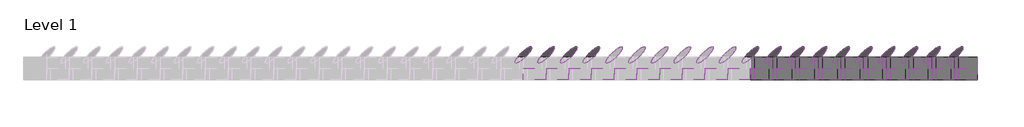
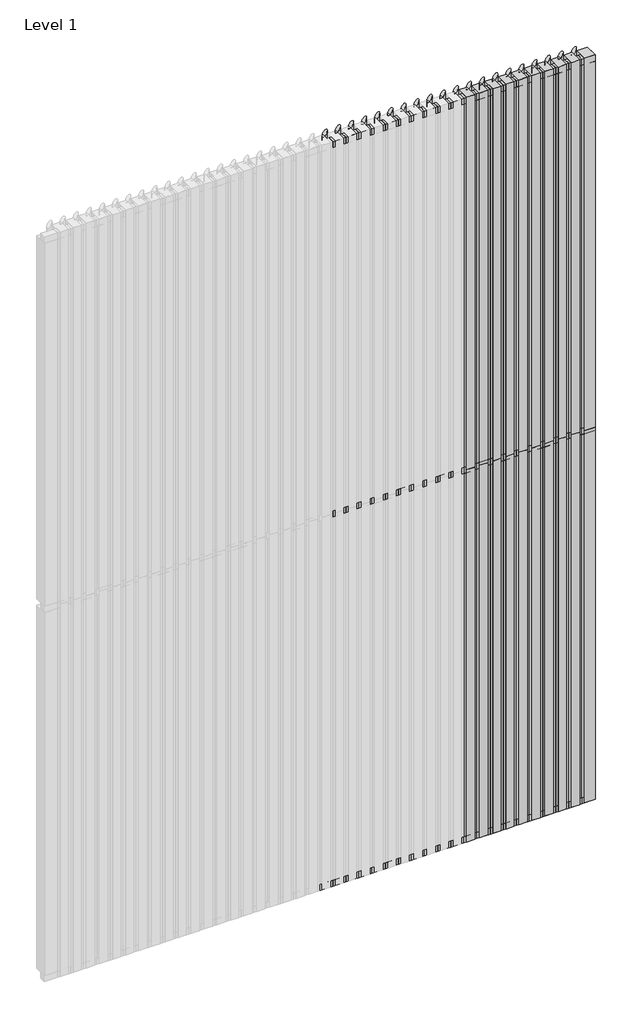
# One storey, part 4 of 4: 95 members, 40 plates.
"""IFC4 building model written with IfcOpenShell, lengths in millimetres."""

from ifc_helpers import new_model, si_unit, origin, place, context, project, spatial, transform, mapped, element, save
from components import rectangular_mullion_c274bac7, rectangular_mullion_cddbc660, rectangular_mullion_a3e25429, rectangular_mullion_ae434dd9, empty_system_panel_empty_d67cafe6, empty_system_panel_empty_80e3f5b0, empty_system_panel_empty_147de6ce

model = new_model("IFC4")

# Units and contexts
model_context = context("Model", 3, world=origin())
ifc_project = project(units=[si_unit("LENGTHUNIT", "METRE", prefix="MILLI")], contexts=[model_context])

# Site, building, storey
site = spatial("IfcSite", under=ifc_project)
building = spatial("IfcBuilding", under=site)
storey = spatial("IfcBuildingStorey", under=building, Name="Level 1", Elevation=0.0)

# Members
placement = place(None, origin())
rectangular_mullion_shape = rectangular_mullion_c274bac7(model_context)
element("IfcMember", 1, ObjectType="Rectangular Mullion : RSen_21_CWM_blade - 100 ellips - 45°_gen_duco projects", at=placement, inside=storey, context=model_context, shape_type="MappedRepresentation", body=[
    mapped(rectangular_mullion_shape, transform((5900.0, 3000.0, 0.0), x_axis=(-1.0, 0.0, 0.0), y_axis=(0.0, 1.0, 0.0), z_axis=(0.0, 0.0, -1.0))),
])
element("IfcMember", 2, ObjectType="Rectangular Mullion : RSen_21_CWM_blade - 100 ellips - 45°_gen_duco projects", at=placement, inside=storey, context=model_context, shape_type="MappedRepresentation", body=[
    mapped(rectangular_mullion_shape, transform((5800.0, 3000.0, 0.0), x_axis=(-1.0, 0.0, 0.0), y_axis=(0.0, 1.0, 0.0), z_axis=(0.0, 0.0, -1.0))),
])
element("IfcMember", 3, ObjectType="Rectangular Mullion : RSen_21_CWM_blade - 100 ellips - 45°_gen_duco projects", at=placement, inside=storey, context=model_context, shape_type="MappedRepresentation", body=[
    mapped(rectangular_mullion_shape, transform((5700.0, 3000.0, 0.0), x_axis=(-1.0, 0.0, 0.0), y_axis=(0.0, 1.0, 0.0), z_axis=(0.0, 0.0, -1.0))),
])
element("IfcMember", 4, ObjectType="Rectangular Mullion : RSen_21_CWM_blade - 100 ellips - 45°_gen_duco projects", at=placement, inside=storey, context=model_context, shape_type="MappedRepresentation", body=[
    mapped(rectangular_mullion_shape, transform((5600.0, 3000.0, 0.0), x_axis=(-1.0, 0.0, 0.0), y_axis=(0.0, 1.0, 0.0), z_axis=(0.0, 0.0, -1.0))),
])
element("IfcMember", 5, ObjectType="Rectangular Mullion : RSen_21_CWM_blade - 100 ellips - 45°_gen_duco projects", at=placement, inside=storey, context=model_context, shape_type="MappedRepresentation", body=[
    mapped(rectangular_mullion_shape, transform((5500.0, 3000.0, 0.0), x_axis=(-1.0, 0.0, 0.0), y_axis=(0.0, 1.0, 0.0), z_axis=(0.0, 0.0, -1.0))),
])
element("IfcMember", 6, ObjectType="Rectangular Mullion : RSen_21_CWM_blade - 100 ellips - 45°_gen_duco projects", at=placement, inside=storey, context=model_context, shape_type="MappedRepresentation", body=[
    mapped(rectangular_mullion_shape, transform((5400.0, 3000.0, 0.0), x_axis=(-1.0, 0.0, 0.0), y_axis=(0.0, 1.0, 0.0), z_axis=(0.0, 0.0, -1.0))),
])
element("IfcMember", 7, ObjectType="Rectangular Mullion : RSen_21_CWM_blade - 100 ellips - 45°_gen_duco projects", at=placement, inside=storey, context=model_context, shape_type="MappedRepresentation", body=[
    mapped(rectangular_mullion_shape, transform((5300.0, 3000.0, 0.0), x_axis=(-1.0, 0.0, 0.0), y_axis=(0.0, 1.0, 0.0), z_axis=(0.0, 0.0, -1.0))),
])
element("IfcMember", 8, ObjectType="Rectangular Mullion : RSen_21_CWM_blade - 100 ellips - 45°_gen_duco projects", at=placement, inside=storey, context=model_context, shape_type="MappedRepresentation", body=[
    mapped(rectangular_mullion_shape, transform((5200.0, 3000.0, 0.0), x_axis=(-1.0, 0.0, 0.0), y_axis=(0.0, 1.0, 0.0), z_axis=(0.0, 0.0, -1.0))),
])
element("IfcMember", 9, ObjectType="Rectangular Mullion : RSen_21_CWM_blade - 100 ellips - 45°_gen_duco projects", at=placement, inside=storey, context=model_context, shape_type="MappedRepresentation", body=[
    mapped(rectangular_mullion_shape, transform((5100.0, 3000.0, 0.0), x_axis=(-1.0, 0.0, 0.0), y_axis=(0.0, 1.0, 0.0), z_axis=(0.0, 0.0, -1.0))),
])
element("IfcMember", 10, ObjectType="Rectangular Mullion : RSen_21_CWM_blade - 100 ellips - 45°_gen_duco projects", at=placement, inside=storey, context=model_context, shape_type="MappedRepresentation", body=[
    mapped(rectangular_mullion_shape, transform((5000.0, 3000.0, 0.0), x_axis=(-1.0, 0.0, 0.0), y_axis=(0.0, 1.0, 0.0), z_axis=(0.0, 0.0, -1.0))),
])
element("IfcMember", 11, ObjectType="Rectangular Mullion : RSen_21_CWM_blade - 100 ellips - 45°_gen_duco projects", at=placement, inside=storey, context=model_context, shape_type="MappedRepresentation", body=[
    mapped(rectangular_mullion_shape, transform((4300.0, 3000.0, 0.0), x_axis=(-1.0, 0.0, 0.0), y_axis=(0.0, 1.0, 0.0), z_axis=(0.0, 0.0, -1.0))),
])
element("IfcMember", 12, ObjectType="Rectangular Mullion : RSen_21_CWM_blade - 100 ellips - 45°_gen_duco projects", at=placement, inside=storey, context=model_context, shape_type="MappedRepresentation", body=[
    mapped(rectangular_mullion_shape, transform((4200.0, 3000.0, 0.0), x_axis=(-1.0, 0.0, 0.0), y_axis=(0.0, 1.0, 0.0), z_axis=(0.0, 0.0, -1.0))),
])
element("IfcMember", 13, ObjectType="Rectangular Mullion : RSen_21_CWM_blade - 100 ellips - 45°_gen_duco projects", at=placement, inside=storey, context=model_context, shape_type="MappedRepresentation", body=[
    mapped(rectangular_mullion_shape, transform((4100.0, 3000.0, 0.0), x_axis=(-1.0, 0.0, 0.0), y_axis=(0.0, 1.0, 0.0), z_axis=(0.0, 0.0, -1.0))),
])
element("IfcMember", 14, ObjectType="Rectangular Mullion : RSen_21_CWM_blade - 100 ellips - 45°_gen_duco projects", at=placement, inside=storey, context=model_context, shape_type="MappedRepresentation", body=[
    mapped(rectangular_mullion_shape, transform((4000.0, 3000.0, 0.0), x_axis=(-1.0, 0.0, 0.0), y_axis=(0.0, 1.0, 0.0), z_axis=(0.0, 0.0, -1.0))),
])
element("IfcMember", 15, ObjectType="Rectangular Mullion : RSen_21_CWM_blade - 100 ellips - 45°_gen_duco projects", at=placement, inside=storey, context=model_context, shape_type="MappedRepresentation", body=[
    mapped(rectangular_mullion_shape, transform((5900.0, 3000.0, 3000.0), x_axis=(-1.0, 0.0, 0.0), y_axis=(0.0, 1.0, 0.0), z_axis=(0.0, 0.0, -1.0))),
])
element("IfcMember", 16, ObjectType="Rectangular Mullion : RSen_21_CWM_blade - 100 ellips - 45°_gen_duco projects", at=placement, inside=storey, context=model_context, shape_type="MappedRepresentation", body=[
    mapped(rectangular_mullion_shape, transform((5800.0, 3000.0, 3000.0), x_axis=(-1.0, 0.0, 0.0), y_axis=(0.0, 1.0, 0.0), z_axis=(0.0, 0.0, -1.0))),
])
element("IfcMember", 17, ObjectType="Rectangular Mullion : RSen_21_CWM_blade - 100 ellips - 45°_gen_duco projects", at=placement, inside=storey, context=model_context, shape_type="MappedRepresentation", body=[
    mapped(rectangular_mullion_shape, transform((5700.0, 3000.0, 3000.0), x_axis=(-1.0, 0.0, 0.0), y_axis=(0.0, 1.0, 0.0), z_axis=(0.0, 0.0, -1.0))),
])
element("IfcMember", 18, ObjectType="Rectangular Mullion : RSen_21_CWM_blade - 100 ellips - 45°_gen_duco projects", at=placement, inside=storey, context=model_context, shape_type="MappedRepresentation", body=[
    mapped(rectangular_mullion_shape, transform((5600.0, 3000.0, 3000.0), x_axis=(-1.0, 0.0, 0.0), y_axis=(0.0, 1.0, 0.0), z_axis=(0.0, 0.0, -1.0))),
])
element("IfcMember", 19, ObjectType="Rectangular Mullion : RSen_21_CWM_blade - 100 ellips - 45°_gen_duco projects", at=placement, inside=storey, context=model_context, shape_type="MappedRepresentation", body=[
    mapped(rectangular_mullion_shape, transform((5500.0, 3000.0, 3000.0), x_axis=(-1.0, 0.0, 0.0), y_axis=(0.0, 1.0, 0.0), z_axis=(0.0, 0.0, -1.0))),
])
element("IfcMember", 20, ObjectType="Rectangular Mullion : RSen_21_CWM_blade - 100 ellips - 45°_gen_duco projects", at=placement, inside=storey, context=model_context, shape_type="MappedRepresentation", body=[
    mapped(rectangular_mullion_shape, transform((5400.0, 3000.0, 3000.0), x_axis=(-1.0, 0.0, 0.0), y_axis=(0.0, 1.0, 0.0), z_axis=(0.0, 0.0, -1.0))),
])
element("IfcMember", 21, ObjectType="Rectangular Mullion : RSen_21_CWM_blade - 100 ellips - 45°_gen_duco projects", at=placement, inside=storey, context=model_context, shape_type="MappedRepresentation", body=[
    mapped(rectangular_mullion_shape, transform((5300.0, 3000.0, 3000.0), x_axis=(-1.0, 0.0, 0.0), y_axis=(0.0, 1.0, 0.0), z_axis=(0.0, 0.0, -1.0))),
])
element("IfcMember", 22, ObjectType="Rectangular Mullion : RSen_21_CWM_blade - 100 ellips - 45°_gen_duco projects", at=placement, inside=storey, context=model_context, shape_type="MappedRepresentation", body=[
    mapped(rectangular_mullion_shape, transform((5200.0, 3000.0, 3000.0), x_axis=(-1.0, 0.0, 0.0), y_axis=(0.0, 1.0, 0.0), z_axis=(0.0, 0.0, -1.0))),
])
element("IfcMember", 23, ObjectType="Rectangular Mullion : RSen_21_CWM_blade - 100 ellips - 45°_gen_duco projects", at=placement, inside=storey, context=model_context, shape_type="MappedRepresentation", body=[
    mapped(rectangular_mullion_shape, transform((5100.0, 3000.0, 3000.0), x_axis=(-1.0, 0.0, 0.0), y_axis=(0.0, 1.0, 0.0), z_axis=(0.0, 0.0, -1.0))),
])
element("IfcMember", 24, ObjectType="Rectangular Mullion : RSen_21_CWM_blade - 100 ellips - 45°_gen_duco projects", at=placement, inside=storey, context=model_context, shape_type="MappedRepresentation", body=[
    mapped(rectangular_mullion_shape, transform((5000.0, 3000.0, 3000.0), x_axis=(-1.0, 0.0, 0.0), y_axis=(0.0, 1.0, 0.0), z_axis=(0.0, 0.0, -1.0))),
])
element("IfcMember", 25, ObjectType="Rectangular Mullion : RSen_21_CWM_blade - 100 ellips - 45°_gen_duco projects", at=placement, inside=storey, context=model_context, shape_type="MappedRepresentation", body=[
    mapped(rectangular_mullion_shape, transform((4900.0, 3000.0, 3000.0), x_axis=(-1.0, 0.0, 0.0), y_axis=(0.0, 1.0, 0.0), z_axis=(0.0, 0.0, -1.0))),
])
element("IfcMember", 26, ObjectType="Rectangular Mullion : RSen_21_CWM_blade - 100 ellips - 45°_gen_duco projects", at=placement, inside=storey, context=model_context, shape_type="MappedRepresentation", body=[
    mapped(rectangular_mullion_shape, transform((4800.0, 3000.0, 3000.0), x_axis=(-1.0, 0.0, 0.0), y_axis=(0.0, 1.0, 0.0), z_axis=(0.0, 0.0, -1.0))),
])
element("IfcMember", 27, ObjectType="Rectangular Mullion : RSen_21_CWM_blade - 100 ellips - 45°_gen_duco projects", at=placement, inside=storey, context=model_context, shape_type="MappedRepresentation", body=[
    mapped(rectangular_mullion_shape, transform((4700.0, 3000.0, 3000.0), x_axis=(-1.0, 0.0, 0.0), y_axis=(0.0, 1.0, 0.0), z_axis=(0.0, 0.0, -1.0))),
])
element("IfcMember", 28, ObjectType="Rectangular Mullion : RSen_21_CWM_blade - 100 ellips - 45°_gen_duco projects", at=placement, inside=storey, context=model_context, shape_type="MappedRepresentation", body=[
    mapped(rectangular_mullion_shape, transform((4600.0, 3000.0, 3000.0), x_axis=(-1.0, 0.0, 0.0), y_axis=(0.0, 1.0, 0.0), z_axis=(0.0, 0.0, -1.0))),
])
element("IfcMember", 29, ObjectType="Rectangular Mullion : RSen_21_CWM_blade - 100 ellips - 45°_gen_duco projects", at=placement, inside=storey, context=model_context, shape_type="MappedRepresentation", body=[
    mapped(rectangular_mullion_shape, transform((4500.0, 3000.0, 3000.0), x_axis=(-1.0, 0.0, 0.0), y_axis=(0.0, 1.0, 0.0), z_axis=(0.0, 0.0, -1.0))),
])
element("IfcMember", 30, ObjectType="Rectangular Mullion : RSen_21_CWM_blade - 100 ellips - 45°_gen_duco projects", at=placement, inside=storey, context=model_context, shape_type="MappedRepresentation", body=[
    mapped(rectangular_mullion_shape, transform((4400.0, 3000.0, 3000.0), x_axis=(-1.0, 0.0, 0.0), y_axis=(0.0, 1.0, 0.0), z_axis=(0.0, 0.0, -1.0))),
])
element("IfcMember", 31, ObjectType="Rectangular Mullion : RSen_21_CWM_blade - 100 ellips - 45°_gen_duco projects", at=placement, inside=storey, context=model_context, shape_type="MappedRepresentation", body=[
    mapped(rectangular_mullion_shape, transform((4300.0, 3000.0, 3000.0), x_axis=(-1.0, 0.0, 0.0), y_axis=(0.0, 1.0, 0.0), z_axis=(0.0, 0.0, -1.0))),
])
element("IfcMember", 32, ObjectType="Rectangular Mullion : RSen_21_CWM_blade - 100 ellips - 45°_gen_duco projects", at=placement, inside=storey, context=model_context, shape_type="MappedRepresentation", body=[
    mapped(rectangular_mullion_shape, transform((4200.0, 3000.0, 3000.0), x_axis=(-1.0, 0.0, 0.0), y_axis=(0.0, 1.0, 0.0), z_axis=(0.0, 0.0, -1.0))),
])
element("IfcMember", 33, ObjectType="Rectangular Mullion : RSen_21_CWM_blade - 100 ellips - 45°_gen_duco projects", at=placement, inside=storey, context=model_context, shape_type="MappedRepresentation", body=[
    mapped(rectangular_mullion_shape, transform((4100.0, 3000.0, 3000.0), x_axis=(-1.0, 0.0, 0.0), y_axis=(0.0, 1.0, 0.0), z_axis=(0.0, 0.0, -1.0))),
])
element("IfcMember", 34, ObjectType="Rectangular Mullion : RSen_21_CWM_blade - 100 ellips - 45°_gen_duco projects", at=placement, inside=storey, context=model_context, shape_type="MappedRepresentation", body=[
    mapped(rectangular_mullion_shape, transform((4000.0, 3000.0, 3000.0), x_axis=(-1.0, 0.0, 0.0), y_axis=(0.0, 1.0, 0.0), z_axis=(0.0, 0.0, -1.0))),
])
rectangular_mullion_2_shape = rectangular_mullion_cddbc660(model_context)
element("IfcMember", 35, ObjectType="Rectangular Mullion : RSen_21_CWM_support profile 50x50 - left_gen_duco projects", at=placement, inside=storey, context=model_context, shape_type="MappedRepresentation", body=[
    mapped(rectangular_mullion_2_shape, transform((5900.0, 3000.0, 6000.0), x_axis=(0.0, 0.0, 1.0), y_axis=(0.0, 1.0, 0.0), z_axis=(-1.0, 0.0, 0.0))),
])
element("IfcMember", 36, ObjectType="Rectangular Mullion : RSen_21_CWM_support profile 50x50 - left_gen_duco projects", at=placement, inside=storey, context=model_context, shape_type="MappedRepresentation", body=[
    mapped(rectangular_mullion_2_shape, transform((5800.0, 3000.0, 6000.0), x_axis=(0.0, 0.0, 1.0), y_axis=(0.0, 1.0, 0.0), z_axis=(-1.0, 0.0, 0.0))),
])
element("IfcMember", 37, ObjectType="Rectangular Mullion : RSen_21_CWM_support profile 50x50 - left_gen_duco projects", at=placement, inside=storey, context=model_context, shape_type="MappedRepresentation", body=[
    mapped(rectangular_mullion_2_shape, transform((5700.0, 3000.0, 6000.0), x_axis=(0.0, 0.0, 1.0), y_axis=(0.0, 1.0, 0.0), z_axis=(-1.0, 0.0, 0.0))),
])
element("IfcMember", 38, ObjectType="Rectangular Mullion : RSen_21_CWM_support profile 50x50 - left_gen_duco projects", at=placement, inside=storey, context=model_context, shape_type="MappedRepresentation", body=[
    mapped(rectangular_mullion_2_shape, transform((5600.0, 3000.0, 6000.0), x_axis=(0.0, 0.0, 1.0), y_axis=(0.0, 1.0, 0.0), z_axis=(-1.0, 0.0, 0.0))),
])
element("IfcMember", 39, ObjectType="Rectangular Mullion : RSen_21_CWM_support profile 50x50 - left_gen_duco projects", at=placement, inside=storey, context=model_context, shape_type="MappedRepresentation", body=[
    mapped(rectangular_mullion_2_shape, transform((5500.0, 3000.0, 6000.0), x_axis=(0.0, 0.0, 1.0), y_axis=(0.0, 1.0, 0.0), z_axis=(-1.0, 0.0, 0.0))),
])
element("IfcMember", 40, ObjectType="Rectangular Mullion : RSen_21_CWM_support profile 50x50 - left_gen_duco projects", at=placement, inside=storey, context=model_context, shape_type="MappedRepresentation", body=[
    mapped(rectangular_mullion_2_shape, transform((5400.0, 3000.0, 6000.0), x_axis=(0.0, 0.0, 1.0), y_axis=(0.0, 1.0, 0.0), z_axis=(-1.0, 0.0, 0.0))),
])
element("IfcMember", 41, ObjectType="Rectangular Mullion : RSen_21_CWM_support profile 50x50 - left_gen_duco projects", at=placement, inside=storey, context=model_context, shape_type="MappedRepresentation", body=[
    mapped(rectangular_mullion_2_shape, transform((5300.0, 3000.0, 6000.0), x_axis=(0.0, 0.0, 1.0), y_axis=(0.0, 1.0, 0.0), z_axis=(-1.0, 0.0, 0.0))),
])
element("IfcMember", 42, ObjectType="Rectangular Mullion : RSen_21_CWM_support profile 50x50 - left_gen_duco projects", at=placement, inside=storey, context=model_context, shape_type="MappedRepresentation", body=[
    mapped(rectangular_mullion_2_shape, transform((5200.0, 3000.0, 6000.0), x_axis=(0.0, 0.0, 1.0), y_axis=(0.0, 1.0, 0.0), z_axis=(-1.0, 0.0, 0.0))),
])
element("IfcMember", 43, ObjectType="Rectangular Mullion : RSen_21_CWM_support profile 50x50 - left_gen_duco projects", at=placement, inside=storey, context=model_context, shape_type="MappedRepresentation", body=[
    mapped(rectangular_mullion_2_shape, transform((5100.0, 3000.0, 6000.0), x_axis=(0.0, 0.0, 1.0), y_axis=(0.0, 1.0, 0.0), z_axis=(-1.0, 0.0, 0.0))),
])
element("IfcMember", 44, ObjectType="Rectangular Mullion : RSen_21_CWM_support profile 50x50 - left_gen_duco projects", at=placement, inside=storey, context=model_context, shape_type="MappedRepresentation", body=[
    mapped(rectangular_mullion_2_shape, transform((5000.0, 3000.0, 6000.0), x_axis=(0.0, 0.0, 1.0), y_axis=(0.0, 1.0, 0.0), z_axis=(-1.0, 0.0, 0.0))),
])
element("IfcMember", 45, ObjectType="Rectangular Mullion : RSen_21_CWM_support profile 50x50 - left_gen_duco projects", at=placement, inside=storey, context=model_context, shape_type="MappedRepresentation", body=[
    mapped(rectangular_mullion_2_shape, transform((4900.0, 3000.0, 6000.0), x_axis=(0.0, 0.0, 1.0), y_axis=(0.0, 1.0, 0.0), z_axis=(-1.0, 0.0, 0.0))),
])
element("IfcMember", 46, ObjectType="Rectangular Mullion : RSen_21_CWM_support profile 50x50 - left_gen_duco projects", at=placement, inside=storey, context=model_context, shape_type="MappedRepresentation", body=[
    mapped(rectangular_mullion_2_shape, transform((4800.0, 3000.0, 6000.0), x_axis=(0.0, 0.0, 1.0), y_axis=(0.0, 1.0, 0.0), z_axis=(-1.0, 0.0, 0.0))),
])
element("IfcMember", 47, ObjectType="Rectangular Mullion : RSen_21_CWM_support profile 50x50 - left_gen_duco projects", at=placement, inside=storey, context=model_context, shape_type="MappedRepresentation", body=[
    mapped(rectangular_mullion_2_shape, transform((4700.0, 3000.0, 6000.0), x_axis=(0.0, 0.0, 1.0), y_axis=(0.0, 1.0, 0.0), z_axis=(-1.0, 0.0, 0.0))),
])
element("IfcMember", 48, ObjectType="Rectangular Mullion : RSen_21_CWM_support profile 50x50 - left_gen_duco projects", at=placement, inside=storey, context=model_context, shape_type="MappedRepresentation", body=[
    mapped(rectangular_mullion_2_shape, transform((4600.0, 3000.0, 6000.0), x_axis=(0.0, 0.0, 1.0), y_axis=(0.0, 1.0, 0.0), z_axis=(-1.0, 0.0, 0.0))),
])
element("IfcMember", 49, ObjectType="Rectangular Mullion : RSen_21_CWM_support profile 50x50 - left_gen_duco projects", at=placement, inside=storey, context=model_context, shape_type="MappedRepresentation", body=[
    mapped(rectangular_mullion_2_shape, transform((4500.0, 3000.0, 6000.0), x_axis=(0.0, 0.0, 1.0), y_axis=(0.0, 1.0, 0.0), z_axis=(-1.0, 0.0, 0.0))),
])
element("IfcMember", 50, ObjectType="Rectangular Mullion : RSen_21_CWM_support profile 50x50 - left_gen_duco projects", at=placement, inside=storey, context=model_context, shape_type="MappedRepresentation", body=[
    mapped(rectangular_mullion_2_shape, transform((4400.0, 3000.0, 6000.0), x_axis=(0.0, 0.0, 1.0), y_axis=(0.0, 1.0, 0.0), z_axis=(-1.0, 0.0, 0.0))),
])
element("IfcMember", 51, ObjectType="Rectangular Mullion : RSen_21_CWM_support profile 50x50 - left_gen_duco projects", at=placement, inside=storey, context=model_context, shape_type="MappedRepresentation", body=[
    mapped(rectangular_mullion_2_shape, transform((4300.0, 3000.0, 6000.0), x_axis=(0.0, 0.0, 1.0), y_axis=(0.0, 1.0, 0.0), z_axis=(-1.0, 0.0, 0.0))),
])
element("IfcMember", 52, ObjectType="Rectangular Mullion : RSen_21_CWM_support profile 50x50 - left_gen_duco projects", at=placement, inside=storey, context=model_context, shape_type="MappedRepresentation", body=[
    mapped(rectangular_mullion_2_shape, transform((4200.0, 3000.0, 6000.0), x_axis=(0.0, 0.0, 1.0), y_axis=(0.0, 1.0, 0.0), z_axis=(-1.0, 0.0, 0.0))),
])
element("IfcMember", 53, ObjectType="Rectangular Mullion : RSen_21_CWM_support profile 50x50 - left_gen_duco projects", at=placement, inside=storey, context=model_context, shape_type="MappedRepresentation", body=[
    mapped(rectangular_mullion_2_shape, transform((4100.0, 3000.0, 6000.0), x_axis=(0.0, 0.0, 1.0), y_axis=(0.0, 1.0, 0.0), z_axis=(-1.0, 0.0, 0.0))),
])
element("IfcMember", 54, ObjectType="Rectangular Mullion : RSen_21_CWM_support profile 50x50 - left_gen_duco projects", at=placement, inside=storey, context=model_context, shape_type="MappedRepresentation", body=[
    mapped(rectangular_mullion_2_shape, transform((4000.0, 3000.0, 6000.0), x_axis=(0.0, 0.0, 1.0), y_axis=(0.0, 1.0, 0.0), z_axis=(-1.0, 0.0, 0.0))),
])
rectangular_mullion_3_shape = rectangular_mullion_a3e25429(model_context)
element("IfcMember", 55, ObjectType="Rectangular Mullion : RSen_21_CWM_support profile 50x50 - right_gen_duco projects", at=placement, inside=storey, context=model_context, shape_type="MappedRepresentation", body=[
    mapped(rectangular_mullion_3_shape, transform((6000.0, 3000.0, 0.0), x_axis=(0.0, 0.0, -1.0), y_axis=(0.0, 1.0, 0.0), z_axis=(1.0, 0.0, 0.0))),
])
element("IfcMember", 56, ObjectType="Rectangular Mullion : RSen_21_CWM_support profile 50x50 - right_gen_duco projects", at=placement, inside=storey, context=model_context, shape_type="MappedRepresentation", body=[
    mapped(rectangular_mullion_3_shape, transform((5900.0, 3000.0, 0.0), x_axis=(0.0, 0.0, -1.0), y_axis=(0.0, 1.0, 0.0), z_axis=(1.0, 0.0, 0.0))),
])
element("IfcMember", 57, ObjectType="Rectangular Mullion : RSen_21_CWM_support profile 50x50 - right_gen_duco projects", at=placement, inside=storey, context=model_context, shape_type="MappedRepresentation", body=[
    mapped(rectangular_mullion_3_shape, transform((5800.0, 3000.0, 0.0), x_axis=(0.0, 0.0, -1.0), y_axis=(0.0, 1.0, 0.0), z_axis=(1.0, 0.0, 0.0))),
])
element("IfcMember", 58, ObjectType="Rectangular Mullion : RSen_21_CWM_support profile 50x50 - right_gen_duco projects", at=placement, inside=storey, context=model_context, shape_type="MappedRepresentation", body=[
    mapped(rectangular_mullion_3_shape, transform((5700.0, 3000.0, 0.0), x_axis=(0.0, 0.0, -1.0), y_axis=(0.0, 1.0, 0.0), z_axis=(1.0, 0.0, 0.0))),
])
element("IfcMember", 59, ObjectType="Rectangular Mullion : RSen_21_CWM_support profile 50x50 - right_gen_duco projects", at=placement, inside=storey, context=model_context, shape_type="MappedRepresentation", body=[
    mapped(rectangular_mullion_3_shape, transform((5600.0, 3000.0, 0.0), x_axis=(0.0, 0.0, -1.0), y_axis=(0.0, 1.0, 0.0), z_axis=(1.0, 0.0, 0.0))),
])
element("IfcMember", 60, ObjectType="Rectangular Mullion : RSen_21_CWM_support profile 50x50 - right_gen_duco projects", at=placement, inside=storey, context=model_context, shape_type="MappedRepresentation", body=[
    mapped(rectangular_mullion_3_shape, transform((5500.0, 3000.0, 0.0), x_axis=(0.0, 0.0, -1.0), y_axis=(0.0, 1.0, 0.0), z_axis=(1.0, 0.0, 0.0))),
])
element("IfcMember", 61, ObjectType="Rectangular Mullion : RSen_21_CWM_support profile 50x50 - right_gen_duco projects", at=placement, inside=storey, context=model_context, shape_type="MappedRepresentation", body=[
    mapped(rectangular_mullion_3_shape, transform((5400.0, 3000.0, 0.0), x_axis=(0.0, 0.0, -1.0), y_axis=(0.0, 1.0, 0.0), z_axis=(1.0, 0.0, 0.0))),
])
element("IfcMember", 62, ObjectType="Rectangular Mullion : RSen_21_CWM_support profile 50x50 - right_gen_duco projects", at=placement, inside=storey, context=model_context, shape_type="MappedRepresentation", body=[
    mapped(rectangular_mullion_3_shape, transform((5300.0, 3000.0, 0.0), x_axis=(0.0, 0.0, -1.0), y_axis=(0.0, 1.0, 0.0), z_axis=(1.0, 0.0, 0.0))),
])
element("IfcMember", 63, ObjectType="Rectangular Mullion : RSen_21_CWM_support profile 50x50 - right_gen_duco projects", at=placement, inside=storey, context=model_context, shape_type="MappedRepresentation", body=[
    mapped(rectangular_mullion_3_shape, transform((5200.0, 3000.0, 0.0), x_axis=(0.0, 0.0, -1.0), y_axis=(0.0, 1.0, 0.0), z_axis=(1.0, 0.0, 0.0))),
])
element("IfcMember", 64, ObjectType="Rectangular Mullion : RSen_21_CWM_support profile 50x50 - right_gen_duco projects", at=placement, inside=storey, context=model_context, shape_type="MappedRepresentation", body=[
    mapped(rectangular_mullion_3_shape, transform((5100.0, 3000.0, 0.0), x_axis=(0.0, 0.0, -1.0), y_axis=(0.0, 1.0, 0.0), z_axis=(1.0, 0.0, 0.0))),
])
element("IfcMember", 65, ObjectType="Rectangular Mullion : RSen_21_CWM_support profile 50x50 - right_gen_duco projects", at=placement, inside=storey, context=model_context, shape_type="MappedRepresentation", body=[
    mapped(rectangular_mullion_3_shape, transform((5000.0, 3000.0, 0.0), x_axis=(0.0, 0.0, -1.0), y_axis=(0.0, 1.0, 0.0), z_axis=(1.0, 0.0, 0.0))),
])
element("IfcMember", 66, ObjectType="Rectangular Mullion : RSen_21_CWM_support profile 50x50 - right_gen_duco projects", at=placement, inside=storey, context=model_context, shape_type="MappedRepresentation", body=[
    mapped(rectangular_mullion_3_shape, transform((4900.0, 3000.0, 0.0), x_axis=(0.0, 0.0, -1.0), y_axis=(0.0, 1.0, 0.0), z_axis=(1.0, 0.0, 0.0))),
])
element("IfcMember", 67, ObjectType="Rectangular Mullion : RSen_21_CWM_support profile 50x50 - right_gen_duco projects", at=placement, inside=storey, context=model_context, shape_type="MappedRepresentation", body=[
    mapped(rectangular_mullion_3_shape, transform((4800.0, 3000.0, 0.0), x_axis=(0.0, 0.0, -1.0), y_axis=(0.0, 1.0, 0.0), z_axis=(1.0, 0.0, 0.0))),
])
element("IfcMember", 68, ObjectType="Rectangular Mullion : RSen_21_CWM_support profile 50x50 - right_gen_duco projects", at=placement, inside=storey, context=model_context, shape_type="MappedRepresentation", body=[
    mapped(rectangular_mullion_3_shape, transform((4700.0, 3000.0, 0.0), x_axis=(0.0, 0.0, -1.0), y_axis=(0.0, 1.0, 0.0), z_axis=(1.0, 0.0, 0.0))),
])
element("IfcMember", 69, ObjectType="Rectangular Mullion : RSen_21_CWM_support profile 50x50 - right_gen_duco projects", at=placement, inside=storey, context=model_context, shape_type="MappedRepresentation", body=[
    mapped(rectangular_mullion_3_shape, transform((4600.0, 3000.0, 0.0), x_axis=(0.0, 0.0, -1.0), y_axis=(0.0, 1.0, 0.0), z_axis=(1.0, 0.0, 0.0))),
])
element("IfcMember", 70, ObjectType="Rectangular Mullion : RSen_21_CWM_support profile 50x50 - right_gen_duco projects", at=placement, inside=storey, context=model_context, shape_type="MappedRepresentation", body=[
    mapped(rectangular_mullion_3_shape, transform((4500.0, 3000.0, 0.0), x_axis=(0.0, 0.0, -1.0), y_axis=(0.0, 1.0, 0.0), z_axis=(1.0, 0.0, 0.0))),
])
element("IfcMember", 71, ObjectType="Rectangular Mullion : RSen_21_CWM_support profile 50x50 - right_gen_duco projects", at=placement, inside=storey, context=model_context, shape_type="MappedRepresentation", body=[
    mapped(rectangular_mullion_3_shape, transform((4400.0, 3000.0, 0.0), x_axis=(0.0, 0.0, -1.0), y_axis=(0.0, 1.0, 0.0), z_axis=(1.0, 0.0, 0.0))),
])
element("IfcMember", 72, ObjectType="Rectangular Mullion : RSen_21_CWM_support profile 50x50 - right_gen_duco projects", at=placement, inside=storey, context=model_context, shape_type="MappedRepresentation", body=[
    mapped(rectangular_mullion_3_shape, transform((4300.0, 3000.0, 0.0), x_axis=(0.0, 0.0, -1.0), y_axis=(0.0, 1.0, 0.0), z_axis=(1.0, 0.0, 0.0))),
])
element("IfcMember", 73, ObjectType="Rectangular Mullion : RSen_21_CWM_support profile 50x50 - right_gen_duco projects", at=placement, inside=storey, context=model_context, shape_type="MappedRepresentation", body=[
    mapped(rectangular_mullion_3_shape, transform((4200.0, 3000.0, 0.0), x_axis=(0.0, 0.0, -1.0), y_axis=(0.0, 1.0, 0.0), z_axis=(1.0, 0.0, 0.0))),
])
element("IfcMember", 74, ObjectType="Rectangular Mullion : RSen_21_CWM_support profile 50x50 - right_gen_duco projects", at=placement, inside=storey, context=model_context, shape_type="MappedRepresentation", body=[
    mapped(rectangular_mullion_3_shape, transform((4100.0, 3000.0, 0.0), x_axis=(0.0, 0.0, -1.0), y_axis=(0.0, 1.0, 0.0), z_axis=(1.0, 0.0, 0.0))),
])
element("IfcMember", 75, ObjectType="Rectangular Mullion : RSen_21_CWM_support profile 50x50 - right_gen_duco projects", at=placement, inside=storey, context=model_context, shape_type="MappedRepresentation", body=[
    mapped(rectangular_mullion_3_shape, transform((4000.0, 3000.0, 0.0), x_axis=(0.0, 0.0, -1.0), y_axis=(0.0, 1.0, 0.0), z_axis=(1.0, 0.0, 0.0))),
])
rectangular_mullion_4_shape = rectangular_mullion_ae434dd9(model_context)
element("IfcMember", 76, ObjectType="Rectangular Mullion : RSen_21_CWM_support profile 50x50_gen_duco projects", at=placement, inside=storey, context=model_context, shape_type="MappedRepresentation", body=[
    mapped(rectangular_mullion_4_shape, transform((5900.0, 3000.0, 3000.0), x_axis=(0.0, 0.0, 1.0), y_axis=(0.0, 1.0, 0.0), z_axis=(-1.0, 0.0, 0.0))),
])
element("IfcMember", 77, ObjectType="Rectangular Mullion : RSen_21_CWM_support profile 50x50_gen_duco projects", at=placement, inside=storey, context=model_context, shape_type="MappedRepresentation", body=[
    mapped(rectangular_mullion_4_shape, transform((5800.0, 3000.0, 3000.0), x_axis=(0.0, 0.0, 1.0), y_axis=(0.0, 1.0, 0.0), z_axis=(-1.0, 0.0, 0.0))),
])
element("IfcMember", 78, ObjectType="Rectangular Mullion : RSen_21_CWM_support profile 50x50_gen_duco projects", at=placement, inside=storey, context=model_context, shape_type="MappedRepresentation", body=[
    mapped(rectangular_mullion_4_shape, transform((5700.0, 3000.0, 3000.0), x_axis=(0.0, 0.0, 1.0), y_axis=(0.0, 1.0, 0.0), z_axis=(-1.0, 0.0, 0.0))),
])
element("IfcMember", 79, ObjectType="Rectangular Mullion : RSen_21_CWM_support profile 50x50_gen_duco projects", at=placement, inside=storey, context=model_context, shape_type="MappedRepresentation", body=[
    mapped(rectangular_mullion_4_shape, transform((5600.0, 3000.0, 3000.0), x_axis=(0.0, 0.0, 1.0), y_axis=(0.0, 1.0, 0.0), z_axis=(-1.0, 0.0, 0.0))),
])
element("IfcMember", 80, ObjectType="Rectangular Mullion : RSen_21_CWM_support profile 50x50_gen_duco projects", at=placement, inside=storey, context=model_context, shape_type="MappedRepresentation", body=[
    mapped(rectangular_mullion_4_shape, transform((5500.0, 3000.0, 3000.0), x_axis=(0.0, 0.0, 1.0), y_axis=(0.0, 1.0, 0.0), z_axis=(-1.0, 0.0, 0.0))),
])
element("IfcMember", 81, ObjectType="Rectangular Mullion : RSen_21_CWM_support profile 50x50_gen_duco projects", at=placement, inside=storey, context=model_context, shape_type="MappedRepresentation", body=[
    mapped(rectangular_mullion_4_shape, transform((5400.0, 3000.0, 3000.0), x_axis=(0.0, 0.0, 1.0), y_axis=(0.0, 1.0, 0.0), z_axis=(-1.0, 0.0, 0.0))),
])
element("IfcMember", 82, ObjectType="Rectangular Mullion : RSen_21_CWM_support profile 50x50_gen_duco projects", at=placement, inside=storey, context=model_context, shape_type="MappedRepresentation", body=[
    mapped(rectangular_mullion_4_shape, transform((5300.0, 3000.0, 3000.0), x_axis=(0.0, 0.0, 1.0), y_axis=(0.0, 1.0, 0.0), z_axis=(-1.0, 0.0, 0.0))),
])
element("IfcMember", 83, ObjectType="Rectangular Mullion : RSen_21_CWM_support profile 50x50_gen_duco projects", at=placement, inside=storey, context=model_context, shape_type="MappedRepresentation", body=[
    mapped(rectangular_mullion_4_shape, transform((5200.0, 3000.0, 3000.0), x_axis=(0.0, 0.0, 1.0), y_axis=(0.0, 1.0, 0.0), z_axis=(-1.0, 0.0, 0.0))),
])
element("IfcMember", 84, ObjectType="Rectangular Mullion : RSen_21_CWM_support profile 50x50_gen_duco projects", at=placement, inside=storey, context=model_context, shape_type="MappedRepresentation", body=[
    mapped(rectangular_mullion_4_shape, transform((5100.0, 3000.0, 3000.0), x_axis=(0.0, 0.0, 1.0), y_axis=(0.0, 1.0, 0.0), z_axis=(-1.0, 0.0, 0.0))),
])
element("IfcMember", 85, ObjectType="Rectangular Mullion : RSen_21_CWM_support profile 50x50_gen_duco projects", at=placement, inside=storey, context=model_context, shape_type="MappedRepresentation", body=[
    mapped(rectangular_mullion_4_shape, transform((5000.0, 3000.0, 3000.0), x_axis=(0.0, 0.0, 1.0), y_axis=(0.0, 1.0, 0.0), z_axis=(-1.0, 0.0, 0.0))),
])
element("IfcMember", 86, ObjectType="Rectangular Mullion : RSen_21_CWM_support profile 50x50_gen_duco projects", at=placement, inside=storey, context=model_context, shape_type="MappedRepresentation", body=[
    mapped(rectangular_mullion_4_shape, transform((4900.0, 3000.0, 3000.0), x_axis=(0.0, 0.0, 1.0), y_axis=(0.0, 1.0, 0.0), z_axis=(-1.0, 0.0, 0.0))),
])
element("IfcMember", 87, ObjectType="Rectangular Mullion : RSen_21_CWM_support profile 50x50_gen_duco projects", at=placement, inside=storey, context=model_context, shape_type="MappedRepresentation", body=[
    mapped(rectangular_mullion_4_shape, transform((4800.0, 3000.0, 3000.0), x_axis=(0.0, 0.0, 1.0), y_axis=(0.0, 1.0, 0.0), z_axis=(-1.0, 0.0, 0.0))),
])
element("IfcMember", 88, ObjectType="Rectangular Mullion : RSen_21_CWM_support profile 50x50_gen_duco projects", at=placement, inside=storey, context=model_context, shape_type="MappedRepresentation", body=[
    mapped(rectangular_mullion_4_shape, transform((4700.0, 3000.0, 3000.0), x_axis=(0.0, 0.0, 1.0), y_axis=(0.0, 1.0, 0.0), z_axis=(-1.0, 0.0, 0.0))),
])
element("IfcMember", 89, ObjectType="Rectangular Mullion : RSen_21_CWM_support profile 50x50_gen_duco projects", at=placement, inside=storey, context=model_context, shape_type="MappedRepresentation", body=[
    mapped(rectangular_mullion_4_shape, transform((4600.0, 3000.0, 3000.0), x_axis=(0.0, 0.0, 1.0), y_axis=(0.0, 1.0, 0.0), z_axis=(-1.0, 0.0, 0.0))),
])
element("IfcMember", 90, ObjectType="Rectangular Mullion : RSen_21_CWM_support profile 50x50_gen_duco projects", at=placement, inside=storey, context=model_context, shape_type="MappedRepresentation", body=[
    mapped(rectangular_mullion_4_shape, transform((4500.0, 3000.0, 3000.0), x_axis=(0.0, 0.0, 1.0), y_axis=(0.0, 1.0, 0.0), z_axis=(-1.0, 0.0, 0.0))),
])
element("IfcMember", 91, ObjectType="Rectangular Mullion : RSen_21_CWM_support profile 50x50_gen_duco projects", at=placement, inside=storey, context=model_context, shape_type="MappedRepresentation", body=[
    mapped(rectangular_mullion_4_shape, transform((4400.0, 3000.0, 3000.0), x_axis=(0.0, 0.0, 1.0), y_axis=(0.0, 1.0, 0.0), z_axis=(-1.0, 0.0, 0.0))),
])
element("IfcMember", 92, ObjectType="Rectangular Mullion : RSen_21_CWM_support profile 50x50_gen_duco projects", at=placement, inside=storey, context=model_context, shape_type="MappedRepresentation", body=[
    mapped(rectangular_mullion_4_shape, transform((4300.0, 3000.0, 3000.0), x_axis=(0.0, 0.0, 1.0), y_axis=(0.0, 1.0, 0.0), z_axis=(-1.0, 0.0, 0.0))),
])
element("IfcMember", 93, ObjectType="Rectangular Mullion : RSen_21_CWM_support profile 50x50_gen_duco projects", at=placement, inside=storey, context=model_context, shape_type="MappedRepresentation", body=[
    mapped(rectangular_mullion_4_shape, transform((4200.0, 3000.0, 3000.0), x_axis=(0.0, 0.0, 1.0), y_axis=(0.0, 1.0, 0.0), z_axis=(-1.0, 0.0, 0.0))),
])
element("IfcMember", 94, ObjectType="Rectangular Mullion : RSen_21_CWM_support profile 50x50_gen_duco projects", at=placement, inside=storey, context=model_context, shape_type="MappedRepresentation", body=[
    mapped(rectangular_mullion_4_shape, transform((4100.0, 3000.0, 3000.0), x_axis=(0.0, 0.0, 1.0), y_axis=(0.0, 1.0, 0.0), z_axis=(-1.0, 0.0, 0.0))),
])
element("IfcMember", 95, ObjectType="Rectangular Mullion : RSen_21_CWM_support profile 50x50_gen_duco projects", at=placement, inside=storey, context=model_context, shape_type="MappedRepresentation", body=[
    mapped(rectangular_mullion_4_shape, transform((4000.0, 3000.0, 3000.0), x_axis=(0.0, 0.0, 1.0), y_axis=(0.0, 1.0, 0.0), z_axis=(-1.0, 0.0, 0.0))),
])

# Plates
empty_system_panel_empty_shape = empty_system_panel_empty_d67cafe6(model_context)
element("IfcPlate", 96, ObjectType="Empty System Panel : Empty", at=placement, inside=storey, context=model_context, shape_type="MappedRepresentation", body=[
    mapped(empty_system_panel_empty_shape, transform((5959.1923882, 3000.0, 0.0), x_axis=(-1.0, 0.0, 0.0), y_axis=(0.0, -1.0, 0.0), z_axis=(0.0, 0.0, 1.0))),
])
element("IfcPlate", 97, ObjectType="Empty System Panel : Empty", at=placement, inside=storey, context=model_context, shape_type="MappedRepresentation", body=[
    mapped(empty_system_panel_empty_shape, transform((5959.1923882, 3000.0, 3000.0), x_axis=(-1.0, 0.0, 0.0), y_axis=(0.0, -1.0, 0.0), z_axis=(0.0, 0.0, 1.0))),
])
empty_system_panel_empty_2_shape = empty_system_panel_empty_80e3f5b0(model_context)
element("IfcPlate", 98, ObjectType="Empty System Panel : Empty", at=placement, inside=storey, context=model_context, shape_type="MappedRepresentation", body=[
    mapped(empty_system_panel_empty_2_shape, transform((5850.0, 3000.0, 0.0), x_axis=(-1.0, 0.0, 0.0), y_axis=(0.0, -1.0, 0.0), z_axis=(0.0, 0.0, 1.0))),
])
element("IfcPlate", 99, ObjectType="Empty System Panel : Empty", at=placement, inside=storey, context=model_context, shape_type="MappedRepresentation", body=[
    mapped(empty_system_panel_empty_2_shape, transform((5750.0, 3000.0, 0.0), x_axis=(-1.0, 0.0, 0.0), y_axis=(0.0, -1.0, 0.0), z_axis=(0.0, 0.0, 1.0))),
])
element("IfcPlate", 100, ObjectType="Empty System Panel : Empty", at=placement, inside=storey, context=model_context, shape_type="MappedRepresentation", body=[
    mapped(empty_system_panel_empty_2_shape, transform((5650.0, 3000.0, 0.0), x_axis=(-1.0, 0.0, 0.0), y_axis=(0.0, -1.0, 0.0), z_axis=(0.0, 0.0, 1.0))),
])
element("IfcPlate", 101, ObjectType="Empty System Panel : Empty", at=placement, inside=storey, context=model_context, shape_type="MappedRepresentation", body=[
    mapped(empty_system_panel_empty_2_shape, transform((5550.0, 3000.0, 0.0), x_axis=(-1.0, 0.0, 0.0), y_axis=(0.0, -1.0, 0.0), z_axis=(0.0, 0.0, 1.0))),
])
element("IfcPlate", 102, ObjectType="Empty System Panel : Empty", at=placement, inside=storey, context=model_context, shape_type="MappedRepresentation", body=[
    mapped(empty_system_panel_empty_2_shape, transform((5450.0, 3000.0, 0.0), x_axis=(-1.0, 0.0, 0.0), y_axis=(0.0, -1.0, 0.0), z_axis=(0.0, 0.0, 1.0))),
])
element("IfcPlate", 103, ObjectType="Empty System Panel : Empty", at=placement, inside=storey, context=model_context, shape_type="MappedRepresentation", body=[
    mapped(empty_system_panel_empty_2_shape, transform((5350.0, 3000.0, 0.0), x_axis=(-1.0, 0.0, 0.0), y_axis=(0.0, -1.0, 0.0), z_axis=(0.0, 0.0, 1.0))),
])
element("IfcPlate", 104, ObjectType="Empty System Panel : Empty", at=placement, inside=storey, context=model_context, shape_type="MappedRepresentation", body=[
    mapped(empty_system_panel_empty_2_shape, transform((5250.0, 3000.0, 0.0), x_axis=(-1.0, 0.0, 0.0), y_axis=(0.0, -1.0, 0.0), z_axis=(0.0, 0.0, 1.0))),
])
element("IfcPlate", 105, ObjectType="Empty System Panel : Empty", at=placement, inside=storey, context=model_context, shape_type="MappedRepresentation", body=[
    mapped(empty_system_panel_empty_2_shape, transform((5150.0, 3000.0, 0.0), x_axis=(-1.0, 0.0, 0.0), y_axis=(0.0, -1.0, 0.0), z_axis=(0.0, 0.0, 1.0))),
])
element("IfcPlate", 106, ObjectType="Empty System Panel : Empty", at=placement, inside=storey, context=model_context, shape_type="MappedRepresentation", body=[
    mapped(empty_system_panel_empty_2_shape, transform((5050.0, 3000.0, 0.0), x_axis=(-1.0, 0.0, 0.0), y_axis=(0.0, -1.0, 0.0), z_axis=(0.0, 0.0, 1.0))),
])
element("IfcPlate", 107, ObjectType="Empty System Panel : Empty", at=placement, inside=storey, context=model_context, shape_type="MappedRepresentation", body=[
    mapped(empty_system_panel_empty_2_shape, transform((5850.0, 3000.0, 3000.0), x_axis=(-1.0, 0.0, 0.0), y_axis=(0.0, -1.0, 0.0), z_axis=(0.0, 0.0, 1.0))),
])
element("IfcPlate", 108, ObjectType="Empty System Panel : Empty", at=placement, inside=storey, context=model_context, shape_type="MappedRepresentation", body=[
    mapped(empty_system_panel_empty_2_shape, transform((5750.0, 3000.0, 3000.0), x_axis=(-1.0, 0.0, 0.0), y_axis=(0.0, -1.0, 0.0), z_axis=(0.0, 0.0, 1.0))),
])
element("IfcPlate", 109, ObjectType="Empty System Panel : Empty", at=placement, inside=storey, context=model_context, shape_type="MappedRepresentation", body=[
    mapped(empty_system_panel_empty_2_shape, transform((5650.0, 3000.0, 3000.0), x_axis=(-1.0, 0.0, 0.0), y_axis=(0.0, -1.0, 0.0), z_axis=(0.0, 0.0, 1.0))),
])
element("IfcPlate", 110, ObjectType="Empty System Panel : Empty", at=placement, inside=storey, context=model_context, shape_type="MappedRepresentation", body=[
    mapped(empty_system_panel_empty_2_shape, transform((5550.0, 3000.0, 3000.0), x_axis=(-1.0, 0.0, 0.0), y_axis=(0.0, -1.0, 0.0), z_axis=(0.0, 0.0, 1.0))),
])
element("IfcPlate", 111, ObjectType="Empty System Panel : Empty", at=placement, inside=storey, context=model_context, shape_type="MappedRepresentation", body=[
    mapped(empty_system_panel_empty_2_shape, transform((5450.0, 3000.0, 3000.0), x_axis=(-1.0, 0.0, 0.0), y_axis=(0.0, -1.0, 0.0), z_axis=(0.0, 0.0, 1.0))),
])
element("IfcPlate", 112, ObjectType="Empty System Panel : Empty", at=placement, inside=storey, context=model_context, shape_type="MappedRepresentation", body=[
    mapped(empty_system_panel_empty_2_shape, transform((5350.0, 3000.0, 3000.0), x_axis=(-1.0, 0.0, 0.0), y_axis=(0.0, -1.0, 0.0), z_axis=(0.0, 0.0, 1.0))),
])
element("IfcPlate", 113, ObjectType="Empty System Panel : Empty", at=placement, inside=storey, context=model_context, shape_type="MappedRepresentation", body=[
    mapped(empty_system_panel_empty_2_shape, transform((5250.0, 3000.0, 3000.0), x_axis=(-1.0, 0.0, 0.0), y_axis=(0.0, -1.0, 0.0), z_axis=(0.0, 0.0, 1.0))),
])
element("IfcPlate", 114, ObjectType="Empty System Panel : Empty", at=placement, inside=storey, context=model_context, shape_type="MappedRepresentation", body=[
    mapped(empty_system_panel_empty_2_shape, transform((5150.0, 3000.0, 3000.0), x_axis=(-1.0, 0.0, 0.0), y_axis=(0.0, -1.0, 0.0), z_axis=(0.0, 0.0, 1.0))),
])
element("IfcPlate", 115, ObjectType="Empty System Panel : Empty", at=placement, inside=storey, context=model_context, shape_type="MappedRepresentation", body=[
    mapped(empty_system_panel_empty_2_shape, transform((5050.0, 3000.0, 3000.0), x_axis=(-1.0, 0.0, 0.0), y_axis=(0.0, -1.0, 0.0), z_axis=(0.0, 0.0, 1.0))),
])
empty_system_panel_empty_3_shape = empty_system_panel_empty_147de6ce(model_context)
element("IfcPlate", 116, ObjectType="Empty System Panel : Empty", at=placement, inside=storey, context=model_context, shape_type="MappedRepresentation", body=[
    mapped(empty_system_panel_empty_3_shape, transform((5950.0, 3000.0, 50.0), x_axis=(-1.0, 0.0, 0.0), y_axis=(0.0, -1.0, 0.0), z_axis=(0.0, 0.0, 1.0))),
])
element("IfcPlate", 117, ObjectType="Empty System Panel : Empty", at=placement, inside=storey, context=model_context, shape_type="MappedRepresentation", body=[
    mapped(empty_system_panel_empty_3_shape, transform((5850.0, 3000.0, 50.0), x_axis=(-1.0, 0.0, 0.0), y_axis=(0.0, -1.0, 0.0), z_axis=(0.0, 0.0, 1.0))),
])
element("IfcPlate", 118, ObjectType="Empty System Panel : Empty", at=placement, inside=storey, context=model_context, shape_type="MappedRepresentation", body=[
    mapped(empty_system_panel_empty_3_shape, transform((5750.0, 3000.0, 50.0), x_axis=(-1.0, 0.0, 0.0), y_axis=(0.0, -1.0, 0.0), z_axis=(0.0, 0.0, 1.0))),
])
element("IfcPlate", 119, ObjectType="Empty System Panel : Empty", at=placement, inside=storey, context=model_context, shape_type="MappedRepresentation", body=[
    mapped(empty_system_panel_empty_3_shape, transform((5650.0, 3000.0, 50.0), x_axis=(-1.0, 0.0, 0.0), y_axis=(0.0, -1.0, 0.0), z_axis=(0.0, 0.0, 1.0))),
])
element("IfcPlate", 120, ObjectType="Empty System Panel : Empty", at=placement, inside=storey, context=model_context, shape_type="MappedRepresentation", body=[
    mapped(empty_system_panel_empty_3_shape, transform((5550.0, 3000.0, 50.0), x_axis=(-1.0, 0.0, 0.0), y_axis=(0.0, -1.0, 0.0), z_axis=(0.0, 0.0, 1.0))),
])
element("IfcPlate", 121, ObjectType="Empty System Panel : Empty", at=placement, inside=storey, context=model_context, shape_type="MappedRepresentation", body=[
    mapped(empty_system_panel_empty_3_shape, transform((5450.0, 3000.0, 50.0), x_axis=(-1.0, 0.0, 0.0), y_axis=(0.0, -1.0, 0.0), z_axis=(0.0, 0.0, 1.0))),
])
element("IfcPlate", 122, ObjectType="Empty System Panel : Empty", at=placement, inside=storey, context=model_context, shape_type="MappedRepresentation", body=[
    mapped(empty_system_panel_empty_3_shape, transform((5350.0, 3000.0, 50.0), x_axis=(-1.0, 0.0, 0.0), y_axis=(0.0, -1.0, 0.0), z_axis=(0.0, 0.0, 1.0))),
])
element("IfcPlate", 123, ObjectType="Empty System Panel : Empty", at=placement, inside=storey, context=model_context, shape_type="MappedRepresentation", body=[
    mapped(empty_system_panel_empty_3_shape, transform((5250.0, 3000.0, 50.0), x_axis=(-1.0, 0.0, 0.0), y_axis=(0.0, -1.0, 0.0), z_axis=(0.0, 0.0, 1.0))),
])
element("IfcPlate", 124, ObjectType="Empty System Panel : Empty", at=placement, inside=storey, context=model_context, shape_type="MappedRepresentation", body=[
    mapped(empty_system_panel_empty_3_shape, transform((5150.0, 3000.0, 50.0), x_axis=(-1.0, 0.0, 0.0), y_axis=(0.0, -1.0, 0.0), z_axis=(0.0, 0.0, 1.0))),
])
element("IfcPlate", 125, ObjectType="Empty System Panel : Empty", at=placement, inside=storey, context=model_context, shape_type="MappedRepresentation", body=[
    mapped(empty_system_panel_empty_3_shape, transform((5050.0, 3000.0, 50.0), x_axis=(-1.0, 0.0, 0.0), y_axis=(0.0, -1.0, 0.0), z_axis=(0.0, 0.0, 1.0))),
])
element("IfcPlate", 126, ObjectType="Empty System Panel : Empty", at=placement, inside=storey, context=model_context, shape_type="MappedRepresentation", body=[
    mapped(empty_system_panel_empty_3_shape, transform((5950.0, 3000.0, 3025.0), x_axis=(-1.0, 0.0, 0.0), y_axis=(0.0, -1.0, 0.0), z_axis=(0.0, 0.0, 1.0))),
])
element("IfcPlate", 127, ObjectType="Empty System Panel : Empty", at=placement, inside=storey, context=model_context, shape_type="MappedRepresentation", body=[
    mapped(empty_system_panel_empty_3_shape, transform((5850.0, 3000.0, 3025.0), x_axis=(-1.0, 0.0, 0.0), y_axis=(0.0, -1.0, 0.0), z_axis=(0.0, 0.0, 1.0))),
])
element("IfcPlate", 128, ObjectType="Empty System Panel : Empty", at=placement, inside=storey, context=model_context, shape_type="MappedRepresentation", body=[
    mapped(empty_system_panel_empty_3_shape, transform((5750.0, 3000.0, 3025.0), x_axis=(-1.0, 0.0, 0.0), y_axis=(0.0, -1.0, 0.0), z_axis=(0.0, 0.0, 1.0))),
])
element("IfcPlate", 129, ObjectType="Empty System Panel : Empty", at=placement, inside=storey, context=model_context, shape_type="MappedRepresentation", body=[
    mapped(empty_system_panel_empty_3_shape, transform((5650.0, 3000.0, 3025.0), x_axis=(-1.0, 0.0, 0.0), y_axis=(0.0, -1.0, 0.0), z_axis=(0.0, 0.0, 1.0))),
])
element("IfcPlate", 130, ObjectType="Empty System Panel : Empty", at=placement, inside=storey, context=model_context, shape_type="MappedRepresentation", body=[
    mapped(empty_system_panel_empty_3_shape, transform((5550.0, 3000.0, 3025.0), x_axis=(-1.0, 0.0, 0.0), y_axis=(0.0, -1.0, 0.0), z_axis=(0.0, 0.0, 1.0))),
])
element("IfcPlate", 131, ObjectType="Empty System Panel : Empty", at=placement, inside=storey, context=model_context, shape_type="MappedRepresentation", body=[
    mapped(empty_system_panel_empty_3_shape, transform((5450.0, 3000.0, 3025.0), x_axis=(-1.0, 0.0, 0.0), y_axis=(0.0, -1.0, 0.0), z_axis=(0.0, 0.0, 1.0))),
])
element("IfcPlate", 132, ObjectType="Empty System Panel : Empty", at=placement, inside=storey, context=model_context, shape_type="MappedRepresentation", body=[
    mapped(empty_system_panel_empty_3_shape, transform((5350.0, 3000.0, 3025.0), x_axis=(-1.0, 0.0, 0.0), y_axis=(0.0, -1.0, 0.0), z_axis=(0.0, 0.0, 1.0))),
])
element("IfcPlate", 133, ObjectType="Empty System Panel : Empty", at=placement, inside=storey, context=model_context, shape_type="MappedRepresentation", body=[
    mapped(empty_system_panel_empty_3_shape, transform((5250.0, 3000.0, 3025.0), x_axis=(-1.0, 0.0, 0.0), y_axis=(0.0, -1.0, 0.0), z_axis=(0.0, 0.0, 1.0))),
])
element("IfcPlate", 134, ObjectType="Empty System Panel : Empty", at=placement, inside=storey, context=model_context, shape_type="MappedRepresentation", body=[
    mapped(empty_system_panel_empty_3_shape, transform((5150.0, 3000.0, 3025.0), x_axis=(-1.0, 0.0, 0.0), y_axis=(0.0, -1.0, 0.0), z_axis=(0.0, 0.0, 1.0))),
])
element("IfcPlate", 135, ObjectType="Empty System Panel : Empty", at=placement, inside=storey, context=model_context, shape_type="MappedRepresentation", body=[
    mapped(empty_system_panel_empty_3_shape, transform((5050.0, 3000.0, 3025.0), x_axis=(-1.0, 0.0, 0.0), y_axis=(0.0, -1.0, 0.0), z_axis=(0.0, 0.0, 1.0))),
])

save(model, "model.ifc")
